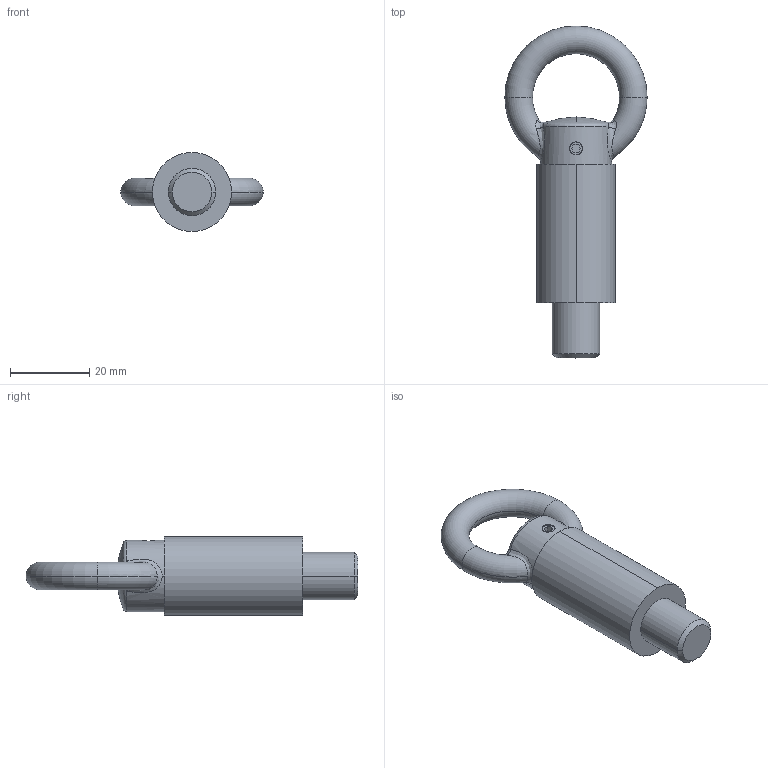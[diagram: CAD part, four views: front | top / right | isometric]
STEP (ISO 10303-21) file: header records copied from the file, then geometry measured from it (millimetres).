
FILE_DESCRIPTION (( 'STEP AP214' ), '1' );
FILE_NAME ('722.4-12-20-RU-ST.step', '2024-02-15T08:22:31', ( '' ), ( '' ), 'SwSTEP 2.0', 'SolidWorks 2022', '' );
FILE_SCHEMA (( 'AUTOMOTIVE_DESIGN' ));
Length unit declared in the file: millimetre
Products named in the file (3): WB722.4_Bolzen^WB722.4_12; WB722.4_Führung^WB722.4_20-12-ST-R; 722.4-12-20-RU-ST
Assembly tree (2 placements, depth 2):
  722.4-12-20-RU-ST
    WB722.4_Führung^WB722.4_20-12-ST-R
    WB722.4_Bolzen^WB722.4_12
Bounding box: 36 x 84 x 20 mm (x, y, z)
Volume: 17561.7 mm3; surface area: 8587 mm2
Topology: 2 solids, 2 shells, 56 faces, 126 edges, 79 vertices
Faces by surface type: cylinder 18, plane 16, torus 8, bspline 8, cone 4, sphere 2
Entity records: 2446 total; most frequent: CARTESIAN_POINT 1102, DIRECTION 270, ORIENTED_EDGE 252, EDGE_CURVE 126, AXIS2_PLACEMENT_3D 115, VERTEX_POINT 79, EDGE_LOOP 65, CIRCLE 62
